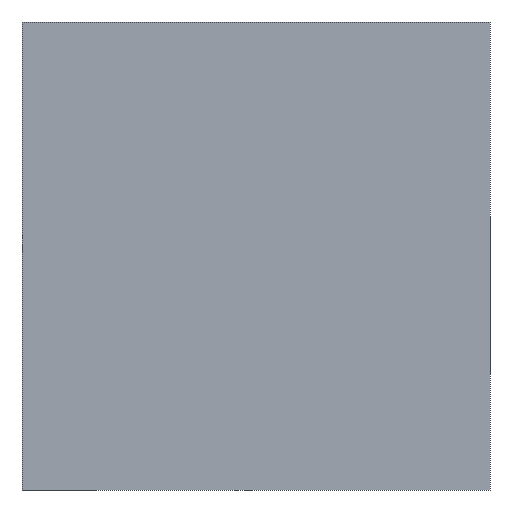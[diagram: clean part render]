
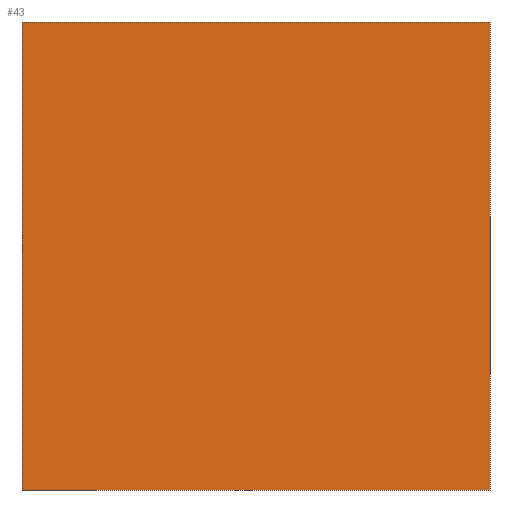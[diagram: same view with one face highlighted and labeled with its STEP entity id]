
A CAD part, front view. The second image highlights one B-rep face of the part: STEP entity #43.
In plain terms, the highlighted planar face has unit normal (0, -1, 0).
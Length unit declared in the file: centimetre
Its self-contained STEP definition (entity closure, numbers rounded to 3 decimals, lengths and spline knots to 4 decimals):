
#10 = VERTEX_POINT ( 'NONE', #758 ) ;
#43 = ADVANCED_FACE ( 'NONE', ( #680 ), #688, .F. ) ;
#75 = EDGE_CURVE ( 'NONE', #594, #10, #77, .T. ) ;
#77 = LINE ( 'NONE', #187, #220 ) ;
#127 = LINE ( 'NONE', #543, #505 ) ;
#141 = CARTESIAN_POINT ( 'NONE',  ( 0., 0., 1000. ) ) ;
#177 = DIRECTION ( 'NONE',  ( 1., 0., 0. ) ) ;
#187 = CARTESIAN_POINT ( 'NONE',  ( 0., 0., 1000. ) ) ;
#207 = CARTESIAN_POINT ( 'NONE',  ( 1000., 0., 1000. ) ) ;
#219 = CARTESIAN_POINT ( 'NONE',  ( 0., 0., 0. ) ) ;
#220 = VECTOR ( 'NONE', #734, 100. ) ;
#246 = VECTOR ( 'NONE', #462, 100. ) ;
#280 = EDGE_LOOP ( 'NONE', ( #342, #536, #404, #286 ) ) ;
#286 = ORIENTED_EDGE ( 'NONE', *, *, #75, .T. ) ;
#288 = EDGE_CURVE ( 'NONE', #10, #289, #767, .T. ) ;
#289 = VERTEX_POINT ( 'NONE', #530 ) ;
#342 = ORIENTED_EDGE ( 'NONE', *, *, #288, .T. ) ;
#381 = DIRECTION ( 'NONE',  ( 0., 1., 0. ) ) ;
#402 = EDGE_CURVE ( 'NONE', #446, #289, #756, .T. ) ;
#404 = ORIENTED_EDGE ( 'NONE', *, *, #595, .F. ) ;
#446 = VERTEX_POINT ( 'NONE', #614 ) ;
#450 = VECTOR ( 'NONE', #698, 100. ) ;
#462 = DIRECTION ( 'NONE',  ( 1., 0., 0. ) ) ;
#505 = VECTOR ( 'NONE', #177, 100. ) ;
#530 = CARTESIAN_POINT ( 'NONE',  ( 1000., 0., 0. ) ) ;
#536 = ORIENTED_EDGE ( 'NONE', *, *, #402, .F. ) ;
#543 = CARTESIAN_POINT ( 'NONE',  ( 0., 0., 1000. ) ) ;
#549 = AXIS2_PLACEMENT_3D ( 'NONE', #141, #381, #630 ) ;
#555 = CARTESIAN_POINT ( 'NONE',  ( 0., 0., 1000. ) ) ;
#594 = VERTEX_POINT ( 'NONE', #555 ) ;
#595 = EDGE_CURVE ( 'NONE', #594, #446, #127, .T. ) ;
#614 = CARTESIAN_POINT ( 'NONE',  ( 1000., 0., 1000. ) ) ;
#630 = DIRECTION ( 'NONE',  ( 0., 0., 1. ) ) ;
#680 = FACE_OUTER_BOUND ( 'NONE', #280, .T. ) ;
#688 = PLANE ( 'NONE',  #549 ) ;
#698 = DIRECTION ( 'NONE',  ( 0., 0., -1. ) ) ;
#734 = DIRECTION ( 'NONE',  ( 0., 0., -1. ) ) ;
#756 = LINE ( 'NONE', #207, #450 ) ;
#758 = CARTESIAN_POINT ( 'NONE',  ( 0., 0., 0. ) ) ;
#767 = LINE ( 'NONE', #219, #246 ) ;
